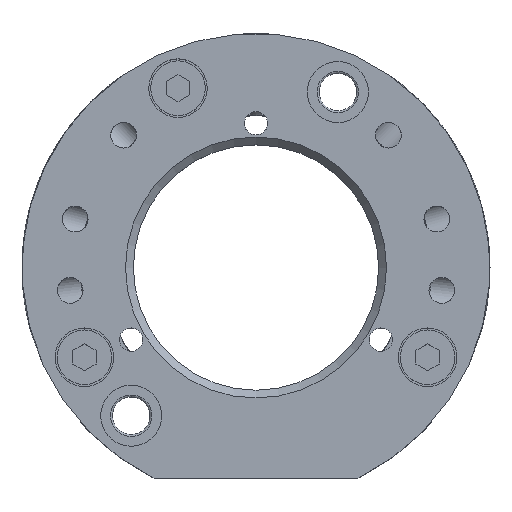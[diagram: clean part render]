
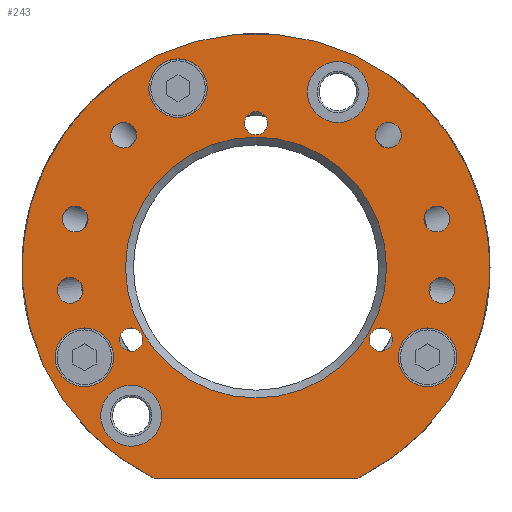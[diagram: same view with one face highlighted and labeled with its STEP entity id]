
A CAD part, top view. The second image highlights one B-rep face of the part: STEP entity #243.
In plain terms, the highlighted planar face has unit normal (0, 0, 1).
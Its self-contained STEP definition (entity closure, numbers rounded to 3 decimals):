
#243 = ADVANCED_FACE( '', ( #689, #690, #691, #692, #693, #694, #695, #696, #697, #698, #699, #700, #701, #702, #703, #704 ), #705, .F. );
#689 = FACE_BOUND( '', #3390, .T. );
#690 = FACE_BOUND( '', #3391, .T. );
#691 = FACE_BOUND( '', #3392, .T. );
#692 = FACE_BOUND( '', #3393, .T. );
#693 = FACE_BOUND( '', #3394, .T. );
#694 = FACE_BOUND( '', #3395, .T. );
#695 = FACE_BOUND( '', #3396, .T. );
#696 = FACE_BOUND( '', #3397, .T. );
#697 = FACE_BOUND( '', #3398, .T. );
#698 = FACE_BOUND( '', #3399, .T. );
#699 = FACE_BOUND( '', #3400, .T. );
#700 = FACE_BOUND( '', #3401, .T. );
#701 = FACE_BOUND( '', #3402, .T. );
#702 = FACE_BOUND( '', #3403, .T. );
#703 = FACE_BOUND( '', #3404, .T. );
#704 = FACE_OUTER_BOUND( '', #3405, .T. );
#705 = PLANE( '', #3406 );
#3390 = EDGE_LOOP( '', ( #4476 ) );
#3391 = EDGE_LOOP( '', ( #4477 ) );
#3392 = EDGE_LOOP( '', ( #4478 ) );
#3393 = EDGE_LOOP( '', ( #4479 ) );
#3394 = EDGE_LOOP( '', ( #4480 ) );
#3395 = EDGE_LOOP( '', ( #4481 ) );
#3396 = EDGE_LOOP( '', ( #4482 ) );
#3397 = EDGE_LOOP( '', ( #4483 ) );
#3398 = EDGE_LOOP( '', ( #4484 ) );
#3399 = EDGE_LOOP( '', ( #4485 ) );
#3400 = EDGE_LOOP( '', ( #4486 ) );
#3401 = EDGE_LOOP( '', ( #4487 ) );
#3402 = EDGE_LOOP( '', ( #4488 ) );
#3403 = EDGE_LOOP( '', ( #4489 ) );
#3404 = EDGE_LOOP( '', ( #4490 ) );
#3405 = EDGE_LOOP( '', ( #4491, #4492 ) );
#3406 = AXIS2_PLACEMENT_3D( '', #4493, #4494, #4495 );
#4476 = ORIENTED_EDGE( '', *, *, #4820, .T. );
#4477 = ORIENTED_EDGE( '', *, *, #4826, .T. );
#4478 = ORIENTED_EDGE( '', *, *, #4810, .T. );
#4479 = ORIENTED_EDGE( '', *, *, #4831, .T. );
#4480 = ORIENTED_EDGE( '', *, *, #4731, .T. );
#4481 = ORIENTED_EDGE( '', *, *, #4713, .T. );
#4482 = ORIENTED_EDGE( '', *, *, #4580, .T. );
#4483 = ORIENTED_EDGE( '', *, *, #4612, .T. );
#4484 = ORIENTED_EDGE( '', *, *, #4614, .T. );
#4485 = ORIENTED_EDGE( '', *, *, #4617, .T. );
#4486 = ORIENTED_EDGE( '', *, *, #4621, .T. );
#4487 = ORIENTED_EDGE( '', *, *, #4624, .T. );
#4488 = ORIENTED_EDGE( '', *, *, #4629, .T. );
#4489 = ORIENTED_EDGE( '', *, *, #4634, .T. );
#4490 = ORIENTED_EDGE( '', *, *, #4832, .T. );
#4491 = ORIENTED_EDGE( '', *, *, #4643, .T. );
#4492 = ORIENTED_EDGE( '', *, *, #4704, .F. );
#4493 = CARTESIAN_POINT( '', ( -16.725, 0., 0. ) );
#4494 = DIRECTION( '', ( 0., 0., -1. ) );
#4495 = DIRECTION( '', ( -1., 0., 0. ) );
#4580 = EDGE_CURVE( '', #4974, #4974, #4975, .T. );
#4612 = EDGE_CURVE( '', #5027, #5027, #5028, .T. );
#4614 = EDGE_CURVE( '', #5030, #5030, #5031, .T. );
#4617 = EDGE_CURVE( '', #5036, #5036, #5037, .T. );
#4621 = EDGE_CURVE( '', #5044, #5044, #5045, .T. );
#4624 = EDGE_CURVE( '', #5050, #5050, #5051, .T. );
#4629 = EDGE_CURVE( '', #5060, #5060, #5061, .T. );
#4634 = EDGE_CURVE( '', #5070, #5070, #5071, .T. );
#4643 = EDGE_CURVE( '', #5082, #5087, #5089, .T. );
#4704 = EDGE_CURVE( '', #5082, #5087, #5191, .T. );
#4713 = EDGE_CURVE( '', #5208, #5208, #5209, .T. );
#4731 = EDGE_CURVE( '', #5239, #5239, #5240, .T. );
#4810 = EDGE_CURVE( '', #5373, #5373, #5374, .T. );
#4820 = EDGE_CURVE( '', #5390, #5390, #5391, .T. );
#4826 = EDGE_CURVE( '', #5401, #5401, #5402, .T. );
#4831 = EDGE_CURVE( '', #5408, #5408, #5409, .T. );
#4832 = EDGE_CURVE( '', #5410, #5410, #5411, .T. );
#4974 = VERTEX_POINT( '', #6488 );
#4975 = CIRCLE( '', #6489, 1.5 );
#5027 = VERTEX_POINT( '', #6631 );
#5028 = CIRCLE( '', #6632, 1.5 );
#5030 = VERTEX_POINT( '', #6634 );
#5031 = CIRCLE( '', #6635, 1.5 );
#5036 = VERTEX_POINT( '', #6640 );
#5037 = CIRCLE( '', #6641, 3.908 );
#5044 = VERTEX_POINT( '', #6648 );
#5045 = CIRCLE( '', #6649, 3.908 );
#5050 = VERTEX_POINT( '', #6654 );
#5051 = CIRCLE( '', #6655, 3.75 );
#5060 = VERTEX_POINT( '', #6664 );
#5061 = CIRCLE( '', #6665, 3.75 );
#5070 = VERTEX_POINT( '', #6674 );
#5071 = CIRCLE( '', #6675, 3.75 );
#5082 = VERTEX_POINT( '', #6686 );
#5087 = VERTEX_POINT( '', #6693 );
#5089 = LINE( '', #6696, #6697 );
#5191 = CIRCLE( '', #8812, 30. );
#5208 = VERTEX_POINT( '', #9138 );
#5209 = CIRCLE( '', #9139, 1.65 );
#5239 = VERTEX_POINT( '', #9271 );
#5240 = CIRCLE( '', #9272, 1.65 );
#5373 = VERTEX_POINT( '', #9515 );
#5374 = CIRCLE( '', #9516, 1.65 );
#5390 = VERTEX_POINT( '', #9579 );
#5391 = CIRCLE( '', #9580, 1.65 );
#5401 = VERTEX_POINT( '', #9638 );
#5402 = CIRCLE( '', #9639, 1.65 );
#5408 = VERTEX_POINT( '', #9646 );
#5409 = CIRCLE( '', #9647, 1.65 );
#5410 = VERTEX_POINT( '', #9648 );
#5411 = CIRCLE( '', #9649, 16.725 );
#6488 = CARTESIAN_POINT( '', ( 0., 17., 0. ) );
#6489 = AXIS2_PLACEMENT_3D( '', #9733, #9734, #9735 );
#6631 = CARTESIAN_POINT( '', ( 16.021, -10.75, 0. ) );
#6632 = AXIS2_PLACEMENT_3D( '', #9790, #9791, #9792 );
#6634 = CARTESIAN_POINT( '', ( -16.021, -10.75, 0. ) );
#6635 = AXIS2_PLACEMENT_3D( '', #9796, #9797, #9798 );
#6640 = CARTESIAN_POINT( '', ( 10.5, 18.593, 0. ) );
#6641 = AXIS2_PLACEMENT_3D( '', #9805, #9806, #9807 );
#6648 = CARTESIAN_POINT( '', ( -16., -22.908, 0. ) );
#6649 = AXIS2_PLACEMENT_3D( '', #9817, #9818, #9819 );
#6654 = CARTESIAN_POINT( '', ( -10., 19.25, 0. ) );
#6655 = AXIS2_PLACEMENT_3D( '', #9826, #9827, #9828 );
#6664 = CARTESIAN_POINT( '', ( 22., -15.25, 0. ) );
#6665 = AXIS2_PLACEMENT_3D( '', #9841, #9842, #9843 );
#6674 = CARTESIAN_POINT( '', ( -22., -15.25, 0. ) );
#6675 = AXIS2_PLACEMENT_3D( '', #9856, #9857, #9858 );
#6686 = CARTESIAN_POINT( '', ( -13.077, -27., 0. ) );
#6693 = CARTESIAN_POINT( '', ( 13.077, -27., 0. ) );
#6696 = CARTESIAN_POINT( '', ( -21.614, -27., 0. ) );
#6697 = VECTOR( '', #9877, 1000. );
#8812 = AXIS2_PLACEMENT_3D( '', #9948, #9949, #9950 );
#9138 = CARTESIAN_POINT( '', ( 23.182, 4.562, 0. ) );
#9139 = AXIS2_PLACEMENT_3D( '', #9956, #9957, #9958 );
#9271 = CARTESIAN_POINT( '', ( 16.971, 15.321, 0. ) );
#9272 = AXIS2_PLACEMENT_3D( '', #9992, #9993, #9994 );
#9515 = CARTESIAN_POINT( '', ( -23.821, -4.575, 0. ) );
#9516 = AXIS2_PLACEMENT_3D( '', #10111, #10112, #10113 );
#9579 = CARTESIAN_POINT( '', ( -16.971, 15.321, 0. ) );
#9580 = AXIS2_PLACEMENT_3D( '', #10131, #10132, #10133 );
#9638 = CARTESIAN_POINT( '', ( -23.182, 4.562, 0. ) );
#9639 = AXIS2_PLACEMENT_3D( '', #10140, #10141, #10142 );
#9646 = CARTESIAN_POINT( '', ( 23.821, -4.575, 0. ) );
#9647 = AXIS2_PLACEMENT_3D( '', #10153, #10154, #10155 );
#9648 = CARTESIAN_POINT( '', ( -16.725, 0., 0. ) );
#9649 = AXIS2_PLACEMENT_3D( '', #10156, #10157, #10158 );
#9733 = CARTESIAN_POINT( '', ( 0., 18.5, 0. ) );
#9734 = DIRECTION( '', ( 0., 0., -1. ) );
#9735 = DIRECTION( '', ( 0., -1., 0. ) );
#9790 = CARTESIAN_POINT( '', ( 16.021, -9.25, 0. ) );
#9791 = DIRECTION( '', ( 0., 0., -1. ) );
#9792 = DIRECTION( '', ( 0., -1., 0. ) );
#9796 = CARTESIAN_POINT( '', ( -16.021, -9.25, 0. ) );
#9797 = DIRECTION( '', ( 0., 0., -1. ) );
#9798 = DIRECTION( '', ( 0., -1., 0. ) );
#9805 = CARTESIAN_POINT( '', ( 10.5, 22.5, 0. ) );
#9806 = DIRECTION( '', ( 0., 0., -1. ) );
#9807 = DIRECTION( '', ( 0., -1., 0. ) );
#9817 = CARTESIAN_POINT( '', ( -16., -19., 0. ) );
#9818 = DIRECTION( '', ( 0., 0., -1. ) );
#9819 = DIRECTION( '', ( 0., -1., 0. ) );
#9826 = CARTESIAN_POINT( '', ( -10., 23., 0. ) );
#9827 = DIRECTION( '', ( 0., 0., -1. ) );
#9828 = DIRECTION( '', ( 0., -1., 0. ) );
#9841 = CARTESIAN_POINT( '', ( 22., -11.5, 0. ) );
#9842 = DIRECTION( '', ( 0., 0., -1. ) );
#9843 = DIRECTION( '', ( 0., -1., 0. ) );
#9856 = CARTESIAN_POINT( '', ( -22., -11.5, 0. ) );
#9857 = DIRECTION( '', ( 0., 0., -1. ) );
#9858 = DIRECTION( '', ( 0., -1., 0. ) );
#9877 = DIRECTION( '', ( 1., 0., 0. ) );
#9948 = CARTESIAN_POINT( '', ( 0., 0., 0. ) );
#9949 = DIRECTION( '', ( 0., 0., -1. ) );
#9950 = DIRECTION( '', ( -1., 0., 0. ) );
#9956 = CARTESIAN_POINT( '', ( 23.182, 6.212, 0. ) );
#9957 = DIRECTION( '', ( 0., 0., -1. ) );
#9958 = DIRECTION( '', ( 0., -1., 0. ) );
#9992 = CARTESIAN_POINT( '', ( 16.971, 16.971, 0. ) );
#9993 = DIRECTION( '', ( 0., 0., -1. ) );
#9994 = DIRECTION( '', ( 0., -1., 0. ) );
#10111 = CARTESIAN_POINT( '', ( -23.821, -2.925, 0. ) );
#10112 = DIRECTION( '', ( 0., 0., -1. ) );
#10113 = DIRECTION( '', ( 0., -1., 0. ) );
#10131 = CARTESIAN_POINT( '', ( -16.971, 16.971, 0. ) );
#10132 = DIRECTION( '', ( 0., 0., -1. ) );
#10133 = DIRECTION( '', ( 0., -1., 0. ) );
#10140 = CARTESIAN_POINT( '', ( -23.182, 6.212, 0. ) );
#10141 = DIRECTION( '', ( 0., 0., -1. ) );
#10142 = DIRECTION( '', ( 0., -1., 0. ) );
#10153 = CARTESIAN_POINT( '', ( 23.821, -2.925, 0. ) );
#10154 = DIRECTION( '', ( 0., 0., -1. ) );
#10155 = DIRECTION( '', ( 0., -1., 0. ) );
#10156 = CARTESIAN_POINT( '', ( 0., 0., 0. ) );
#10157 = DIRECTION( '', ( 0., 0., -1. ) );
#10158 = DIRECTION( '', ( -1., 0., 0. ) );
